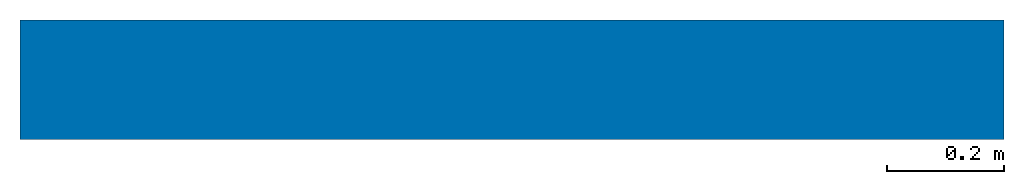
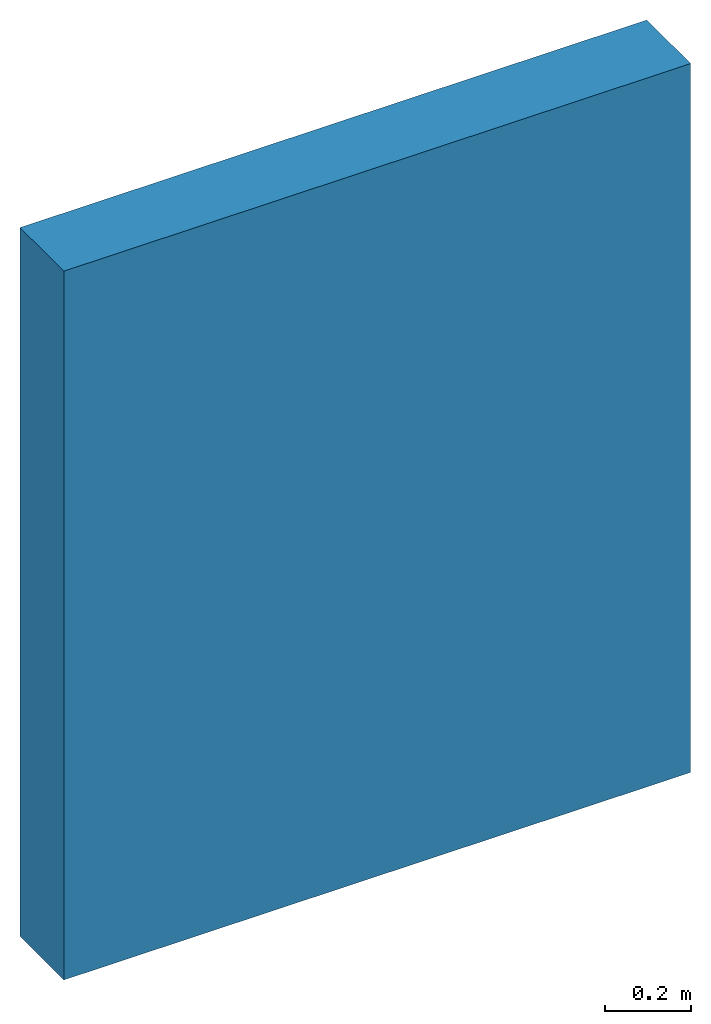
# One storey: 1 wall.
"""IFC2X3 building model written with IfcOpenShell, lengths in feet."""

from ifc_helpers import new_model, entity, si_unit, converted_unit, derived_unit, direction, frame, frame_2d, origin, place, context, subcontext, project, spatial, rectangle, extrude, material, layer, layer_set, layer_usage, type_object, element, save


model = new_model("IFC2X3")

# Units and contexts
model_context = context("Model", 3, precision=0.0001, world=origin(), true_north=direction((6.12303176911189e-17, 1.0)))
body_context = subcontext(model_context, "Body", "Model", "MODEL_VIEW")
ifc_project = project(units=[converted_unit("LENGTHUNIT", "FOOT", entity("IfcRatioMeasure", 0.3048), si_unit("LENGTHUNIT", "METRE"), dimensions=[1, 0, 0, 0, 0, 0, 0]), converted_unit("AREAUNIT", "SQUARE FOOT", entity("IfcRatioMeasure", 0.09290304), si_unit("AREAUNIT", "SQUARE_METRE"), dimensions=[2, 0, 0, 0, 0, 0, 0]), converted_unit("VOLUMEUNIT", "CUBIC FOOT", entity("IfcRatioMeasure", 0.028316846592), si_unit("VOLUMEUNIT", "CUBIC_METRE"), dimensions=[3, 0, 0, 0, 0, 0, 0]), converted_unit("PLANEANGLEUNIT", "DEGREE", entity("IfcRatioMeasure", 0.0174532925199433), si_unit("PLANEANGLEUNIT", "RADIAN"), dimensions=[0, 0, 0, 0, 0, 0, 0]), si_unit("MASSUNIT", "GRAM", prefix="KILO"), derived_unit("MASSDENSITYUNIT", [(si_unit("MASSUNIT", "GRAM", prefix="KILO"), 1), (si_unit("LENGTHUNIT", "METRE"), -3)]), si_unit("TIMEUNIT", "SECOND"), si_unit("FREQUENCYUNIT", "HERTZ"), si_unit("THERMODYNAMICTEMPERATUREUNIT", "DEGREE_CELSIUS"), derived_unit("THERMALTRANSMITTANCEUNIT", [(si_unit("MASSUNIT", "GRAM", prefix="KILO"), 1), (si_unit("THERMODYNAMICTEMPERATUREUNIT", "KELVIN"), -1), (si_unit("TIMEUNIT", "SECOND"), -3)]), derived_unit("VOLUMETRICFLOWRATEUNIT", [(si_unit("LENGTHUNIT", "METRE"), 3), (si_unit("TIMEUNIT", "SECOND"), -1)]), si_unit("ELECTRICCURRENTUNIT", "AMPERE"), si_unit("ELECTRICVOLTAGEUNIT", "VOLT"), si_unit("POWERUNIT", "WATT"), si_unit("FORCEUNIT", "NEWTON"), si_unit("ILLUMINANCEUNIT", "LUX"), si_unit("LUMINOUSFLUXUNIT", "LUMEN"), si_unit("LUMINOUSINTENSITYUNIT", "CANDELA"), derived_unit("USERDEFINED", [(si_unit("MASSUNIT", "GRAM", prefix="KILO"), -1), (si_unit("LENGTHUNIT", "METRE"), -2), (si_unit("TIMEUNIT", "SECOND"), 3), (si_unit("LUMINOUSFLUXUNIT", "LUMEN"), 1)]), derived_unit("LINEARVELOCITYUNIT", [(si_unit("LENGTHUNIT", "METRE"), 1), (si_unit("TIMEUNIT", "SECOND"), -1)]), si_unit("PRESSUREUNIT", "PASCAL"), derived_unit("USERDEFINED", [(si_unit("LENGTHUNIT", "METRE"), -2), (si_unit("MASSUNIT", "GRAM", prefix="KILO"), 1), (si_unit("TIMEUNIT", "SECOND"), -2)])], contexts=[model_context])

# Site, building, storey
site_placement = place(None, origin())
site = spatial("IfcSite", under=ifc_project, at=site_placement, Name="Default", CompositionType="ELEMENT")
building_placement = place(site_placement, origin())
building = spatial("IfcBuilding", under=site, at=building_placement, CompositionType="ELEMENT")
storey_placement = place(building_placement, origin())
storey = spatial("IfcBuildingStorey", under=building, at=storey_placement, Name="Level 1", CompositionType="ELEMENT", Elevation=0.0)

# Wall
ifc_material = material(Name="Default Wall")
ifc_layer = layer(ifc_material, 0.666666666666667)
ifc_layer_set = layer_set([ifc_layer], Name="Basic Wall:Generic - 8\"")
ifc_layer_usage = layer_usage(ifc_layer_set, "AXIS2", "NEGATIVE", 0.333333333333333)
wall_type = type_object("IfcWallType", Name="Basic Wall:Generic - 8\"", PredefinedType="STANDARD", material=ifc_layer_set)
wall_placement = place(storey_placement, frame((-10.2027771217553, 6.74397942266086, 0.0)))
element("IfcWallStandardCase", 1, at=wall_placement, inside=storey, type_object=wall_type, material=ifc_layer_usage, Name="Basic Wall:Generic - 8\"", ObjectType="Basic Wall:Generic - 8\"", context=body_context, shape_type="SweptSolid", body=[
    extrude(rectangle(XDim=5.5, YDim=0.666666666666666, at=frame_2d((2.75, 5.55111512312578e-17), x_axis=(-1.0, 0.0))), origin(), (0.0, 0.0, 1.0), 6.57546486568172),
])

save(model, "model.ifc")
